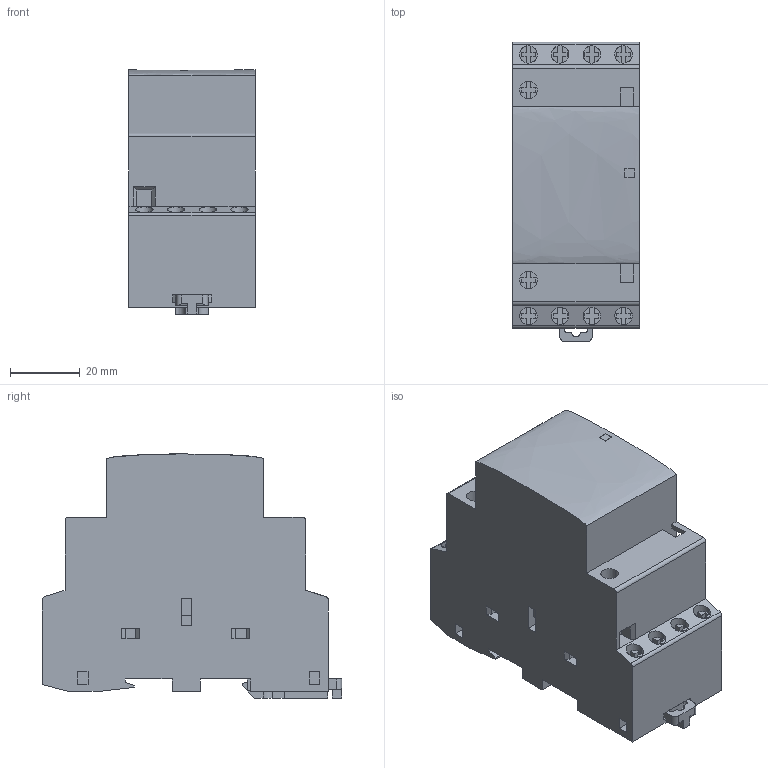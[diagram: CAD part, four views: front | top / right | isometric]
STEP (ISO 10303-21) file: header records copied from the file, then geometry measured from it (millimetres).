
FILE_DESCRIPTION (( 'STEP AP214' ), '1' );
FILE_NAME ('Magneetschakelaar Medium.STEP', '2025-07-29T11:39:39', ( '' ), ( '' ), 'SwSTEP 2.0', 'SolidWorks 2025', '' );
FILE_SCHEMA (( 'AUTOMOTIVE_DESIGN' ));
Length unit declared in the file: millimetre
Products named in the file (3): CAD #22; Magneetschakelaar Medium; Lipje algemeen 1
Assembly tree (2 placements, depth 2):
  Magneetschakelaar Medium
    CAD #22
    Lipje algemeen 1
Bounding box: 36.25 x 85.85 x 70.05 mm (x, y, z)
Volume: 161807.1 mm3; surface area: 22994.6 mm2
Topology: 2 solids, 2 shells, 359 faces, 997 edges, 660 vertices
Faces by surface type: plane 312, cylinder 45, bspline 2
Entity records: 11445 total; most frequent: CARTESIAN_POINT 2111, ORIENTED_EDGE 1994, DIRECTION 1809, EDGE_CURVE 997, VECTOR 861, LINE 861, VERTEX_POINT 660, AXIS2_PLACEMENT_3D 474
